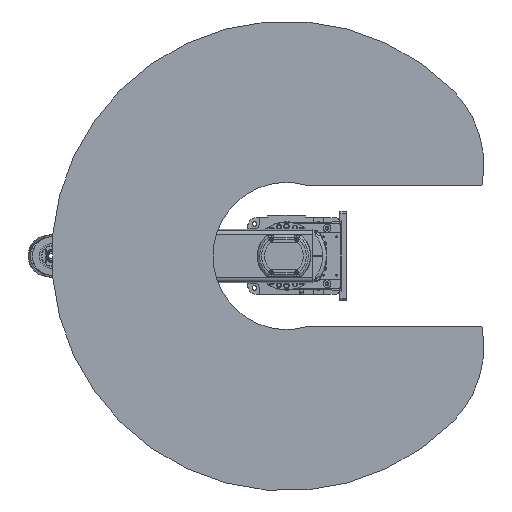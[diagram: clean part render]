
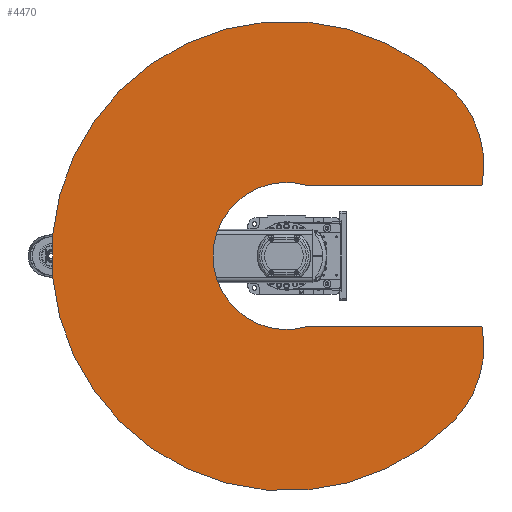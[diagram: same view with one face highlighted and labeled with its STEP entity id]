
A CAD part, front view. The second image highlights one B-rep face of the part: STEP entity #4470.
In plain terms, the highlighted planar face has unit normal (0, -1, 0).
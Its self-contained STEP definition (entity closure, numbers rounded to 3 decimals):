
#4470 = ADVANCED_FACE( '', ( #11678 ), #11679, .F. );
#11678 = FACE_OUTER_BOUND( '', #22768, .T. );
#11679 = PLANE( '', #22769 );
#22768 = EDGE_LOOP( '', ( #36841, #36842, #36843, #36844, #36845, #36846 ) );
#22769 = AXIS2_PLACEMENT_3D( '', #36847, #36848, #36849 );
#36841 = ORIENTED_EDGE( '', *, *, #59628, .T. );
#36842 = ORIENTED_EDGE( '', *, *, #61195, .F. );
#36843 = ORIENTED_EDGE( '', *, *, #61196, .F. );
#36844 = ORIENTED_EDGE( '', *, *, #61197, .F. );
#36845 = ORIENTED_EDGE( '', *, *, #61198, .T. );
#36846 = ORIENTED_EDGE( '', *, *, #61199, .T. );
#36847 = CARTESIAN_POINT( '', ( 106.066, 0., 106.066 ) );
#36848 = DIRECTION( '', ( 0., 1., 0. ) );
#36849 = DIRECTION( '', ( 0., 0., 1. ) );
#59628 = EDGE_CURVE( '', #70260, #70258, #70261, .T. );
#61195 = EDGE_CURVE( '', #72951, #70258, #72952, .T. );
#61196 = EDGE_CURVE( '', #72953, #72951, #72954, .T. );
#61197 = EDGE_CURVE( '', #72955, #72953, #72956, .T. );
#61198 = EDGE_CURVE( '', #72955, #72957, #72958, .T. );
#61199 = EDGE_CURVE( '', #72957, #70260, #72959, .T. );
#70258 = VERTEX_POINT( '', #85889 );
#70260 = VERTEX_POINT( '', #85892 );
#70261 = LINE( '', #85893, #85894 );
#72951 = VERTEX_POINT( '', #90141 );
#72952 = CIRCLE( '', #90142, 250. );
#72953 = VERTEX_POINT( '', #90143 );
#72954 = CIRCLE( '', #90144, 550. );
#72955 = VERTEX_POINT( '', #90145 );
#72956 = CIRCLE( '', #90146, 250. );
#72957 = VERTEX_POINT( '', #90147 );
#72958 = LINE( '', #90148, #90149 );
#72959 = CIRCLE( '', #90150, 172.13 );
#85889 = CARTESIAN_POINT( '', ( -165., 0., 457.649 ) );
#85892 = CARTESIAN_POINT( '', ( -165., 0., 49.028 ) );
#85893 = CARTESIAN_POINT( '', ( -165., 0., 0. ) );
#85894 = VECTOR( '', #109091, 1000. );
#90141 = CARTESIAN_POINT( '', ( -388.909, 0., 388.909 ) );
#90142 = AXIS2_PLACEMENT_3D( '', #111203, #111204, #111205 );
#90143 = CARTESIAN_POINT( '', ( 388.909, 0., 388.909 ) );
#90144 = AXIS2_PLACEMENT_3D( '', #111206, #111207, #111208 );
#90145 = CARTESIAN_POINT( '', ( 165., 0., 457.649 ) );
#90146 = AXIS2_PLACEMENT_3D( '', #111209, #111210, #111211 );
#90147 = CARTESIAN_POINT( '', ( 165., 0., 49.028 ) );
#90148 = CARTESIAN_POINT( '', ( 165., 0., 500. ) );
#90149 = VECTOR( '', #111212, 1000. );
#90150 = AXIS2_PLACEMENT_3D( '', #111213, #111214, #111215 );
#109091 = DIRECTION( '', ( 0., 0., 1. ) );
#111203 = CARTESIAN_POINT( '', ( -212.132, 0., 212.132 ) );
#111204 = DIRECTION( '', ( 0., 1., 0. ) );
#111205 = DIRECTION( '', ( 1., 0., 0. ) );
#111206 = CARTESIAN_POINT( '', ( 0., 0., 0. ) );
#111207 = DIRECTION( '', ( 0., 1., 0. ) );
#111208 = DIRECTION( '', ( 1., 0., 0. ) );
#111209 = CARTESIAN_POINT( '', ( 212.132, 0., 212.132 ) );
#111210 = DIRECTION( '', ( 0., 1., 0. ) );
#111211 = DIRECTION( '', ( 1., 0., 0. ) );
#111212 = DIRECTION( '', ( 0., 0., -1. ) );
#111213 = CARTESIAN_POINT( '', ( 0., 0., 0. ) );
#111214 = DIRECTION( '', ( 0., 1., 0. ) );
#111215 = DIRECTION( '', ( 1., 0., 0. ) );
